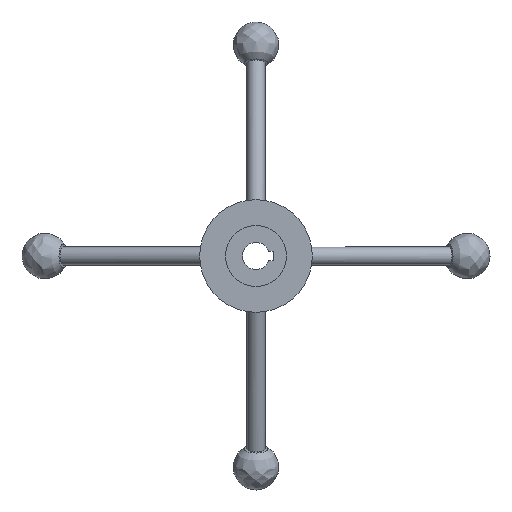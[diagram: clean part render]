
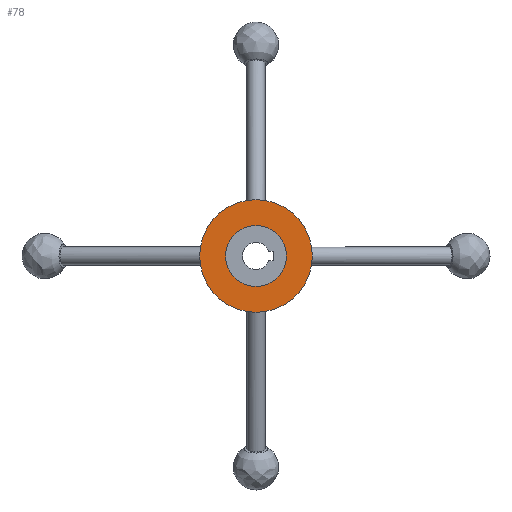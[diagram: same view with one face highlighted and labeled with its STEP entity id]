
A CAD part, front view. The second image highlights one B-rep face of the part: STEP entity #78.
In plain terms, the highlighted planar face has unit normal (0, -1, 0).
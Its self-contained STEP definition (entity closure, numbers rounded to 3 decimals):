
#78 = ADVANCED_FACE( '', ( #107, #108 ), #109, .F. );
#107 = FACE_BOUND( '', #173, .T. );
#108 = FACE_OUTER_BOUND( '', #174, .T. );
#109 = PLANE( '', #175 );
#173 = EDGE_LOOP( '', ( #384 ) );
#174 = EDGE_LOOP( '', ( #385 ) );
#175 = AXIS2_PLACEMENT_3D( '', #386, #387, #388 );
#384 = ORIENTED_EDGE( '', *, *, #489, .F. );
#385 = ORIENTED_EDGE( '', *, *, #490, .T. );
#386 = CARTESIAN_POINT( '', ( 50., 24., 0. ) );
#387 = DIRECTION( '', ( 0., 1., 0. ) );
#388 = DIRECTION( '', ( 0., 0., 1. ) );
#489 = EDGE_CURVE( '', #529, #529, #530, .T. );
#490 = EDGE_CURVE( '', #531, #531, #532, .T. );
#529 = VERTEX_POINT( '', #672 );
#530 = CIRCLE( '', #673, 27. );
#531 = VERTEX_POINT( '', #674 );
#532 = CIRCLE( '', #675, 50. );
#672 = CARTESIAN_POINT( '', ( 0., 24., -27. ) );
#673 = AXIS2_PLACEMENT_3D( '', #997, #998, #999 );
#674 = CARTESIAN_POINT( '', ( 0., 24., -50. ) );
#675 = AXIS2_PLACEMENT_3D( '', #1000, #1001, #1002 );
#997 = CARTESIAN_POINT( '', ( 0., 24., 0. ) );
#998 = DIRECTION( '', ( 0., -1., 0. ) );
#999 = DIRECTION( '', ( 0., 0., -1. ) );
#1000 = CARTESIAN_POINT( '', ( 0., 24., 0. ) );
#1001 = DIRECTION( '', ( 0., -1., 0. ) );
#1002 = DIRECTION( '', ( 0., 0., -1. ) );
